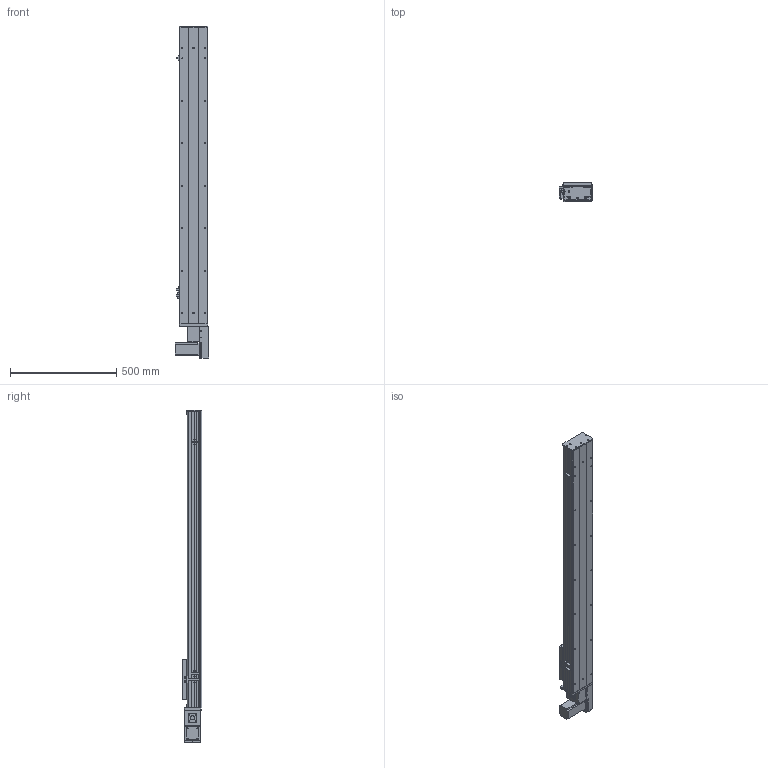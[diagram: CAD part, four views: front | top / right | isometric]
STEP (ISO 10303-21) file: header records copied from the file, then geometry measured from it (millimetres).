
FILE_DESCRIPTION (( 'STEP AP203' ), '1' );
FILE_NAME ('Y135CB-D90-S1100-BL-P400W.STEP', '2020-02-17T09:07:35', ( '微软用户' ), ( '微软中国' ), 'SwSTEP 2.0', 'SolidWorks 2017', '' );
FILE_SCHEMA (( 'CONFIG_CONTROL_DESIGN' ));
Length unit declared in the file: millimetre
Products named in the file (18): Y135C-陔俋离換覜結え-; 0B-埴倛裔啣; 5C--俋欶; 0B-源倛裔啣; C-雄赽釱--; Y135CB-耜裔; 0B-萇儂楊擘啣; Y135CB-D90-S1100-BL-P400W; 135CB---遴掛极.-; san松下电机400不带刹车----; 35CB---喘謫眊楊擘啣; 5CB --掛极耜裔啣-; Y10B--々湍喘謫眊--666; C-詩湍揤踡え-陔; Y10B-耜蚾蟀諉啣----; 135CB--詩湍-CE; Y俋欶BR----; Y100-135俋离換覜ん--
Assembly tree (21 placements, depth 2):
  Y135CB-D90-S1100-BL-P400W
    Y135CB-耜裔
    135CB---遴掛极.-
    35CB---喘謫眊楊擘啣
    Y10B--々湍喘謫眊--666
    Y10B-耜蚾蟀諉啣----
    Y俋欶BR----
    0B-埴倛裔啣
    0B-源倛裔啣
    0B-萇儂楊擘啣
    san松下电机400不带刹车----
    5CB --掛极耜裔啣-  x2
    C-詩湍揤踡え-陔  x2
    135CB--詩湍-CE
    Y100-135俋离換覜ん--  x3
    Y135C-陔俋离換覜結え-
    5C--俋欶
    C-雄赽釱--
Bounding box: 157.5 x 91 x 1564.5 mm (x, y, z)
Volume: 4646879.6 mm3; surface area: 1821629.5 mm2
Topology: 21 solids, 21 shells, 949 faces, 2545 edges, 1686 vertices
Faces by surface type: cylinder 475, plane 458, cone 16
Entity records: 29543 total; most frequent: DIRECTION 4905, CARTESIAN_POINT 4856, ORIENTED_EDGE 4566, EDGE_CURVE 2283, AXIS2_PLACEMENT_3D 1787, VERTEX_POINT 1514, LINE 1331, VECTOR 1331
